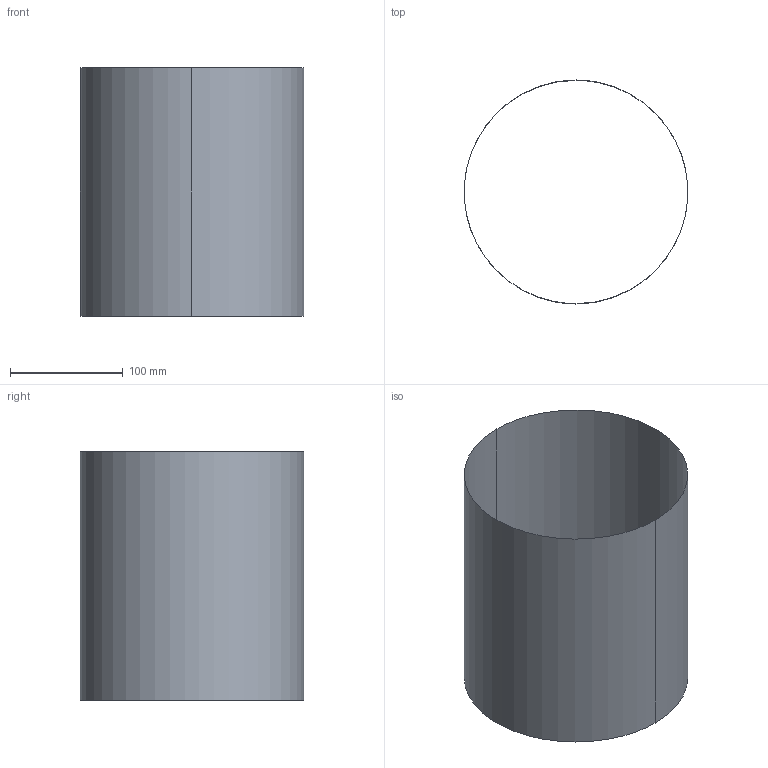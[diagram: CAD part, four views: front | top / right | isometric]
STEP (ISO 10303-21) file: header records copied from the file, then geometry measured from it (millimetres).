
FILE_DESCRIPTION(/* description */ (''),/* implementation_level */ '2;1');
FILE_NAME(/* name */ 'Test 1',/* time_stamp */ '2019-11-28T02:58:52-07:00',/* author */ (''),/* organization */ (''),/* preprocessor_version */ 'ST-DEVELOPER v15',/* originating_system */ '',/* authorisation */ '');
FILE_SCHEMA (('AUTOMOTIVE_DESIGN'));
Length unit declared in the file: millimetre
Products named in the file (1): Document
Bounding box: 197.61 x 198 x 220 mm (x, y, z)
Surface area: 137040.7 mm2 (no closed solid volume)
Topology: 0 solids, 1 shells, 2 faces, 6 edges, 4 vertices
Faces by surface type: bspline 2
Entity records: 108 total; most frequent: CARTESIAN_POINT 50, ORIENTED_EDGE 8, EDGE_CURVE 6, VERTEX_POINT 4, DIRECTION 4, ADVANCED_FACE 2, FACE_OUTER_BOUND 2, EDGE_LOOP 2
